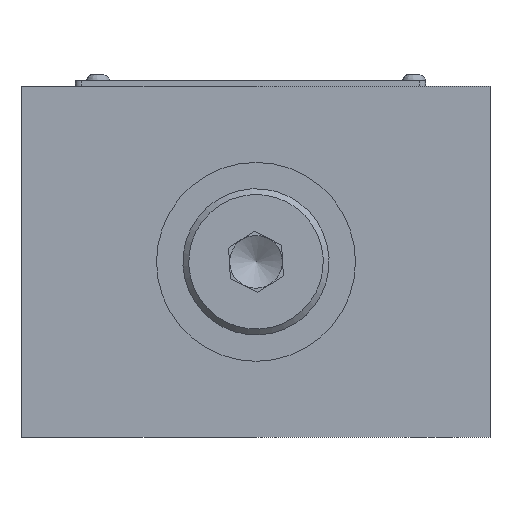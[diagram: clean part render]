
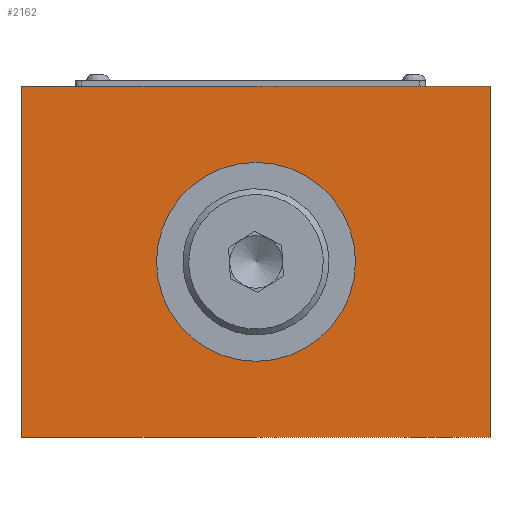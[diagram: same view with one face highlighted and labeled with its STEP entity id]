
A CAD part, front view. The second image highlights one B-rep face of the part: STEP entity #2162.
In plain terms, the highlighted planar face has unit normal (0, -1, 0).
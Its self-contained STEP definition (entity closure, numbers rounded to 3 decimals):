
#479=FACE_BOUND('',#3346,.T.);
#480=FACE_BOUND('',#3347,.T.);
#1491=LINE('',#17259,#1845);
#1493=LINE('',#17265,#1847);
#1494=LINE('',#17267,#1848);
#1495=LINE('',#17269,#1849);
#1845=VECTOR('',#9822,1.);
#1847=VECTOR('',#9828,1.);
#1848=VECTOR('',#9829,1.);
#1849=VECTOR('',#9830,1.);
#2162=ADVANCED_FACE('',(#479,#480),#2679,.F.);
#2679=PLANE('',#8453);
#3346=EDGE_LOOP('',(#4737));
#3347=EDGE_LOOP('',(#4738,#4739,#4740,#4741));
#4737=ORIENTED_EDGE('',*,*,#7190,.T.);
#4738=ORIENTED_EDGE('',*,*,#7191,.T.);
#4739=ORIENTED_EDGE('',*,*,#7192,.F.);
#4740=ORIENTED_EDGE('',*,*,#7193,.F.);
#4741=ORIENTED_EDGE('',*,*,#7188,.T.);
#6287=VERTEX_POINT('',#17258);
#6288=VERTEX_POINT('',#17260);
#6289=VERTEX_POINT('',#17264);
#6290=VERTEX_POINT('',#17266);
#6291=VERTEX_POINT('',#17268);
#7188=EDGE_CURVE('',#6288,#6287,#1491,.T.);
#7190=EDGE_CURVE('',#6289,#6289,#7889,.T.);
#7191=EDGE_CURVE('',#6287,#6290,#1493,.T.);
#7192=EDGE_CURVE('',#6291,#6290,#1494,.T.);
#7193=EDGE_CURVE('',#6288,#6291,#1495,.T.);
#7889=CIRCLE('',#8452,17.);
#8452=AXIS2_PLACEMENT_3D('',#17263,#9826,#9827);
#8453=AXIS2_PLACEMENT_3D('',#17270,#9831,#9832);
#9822=DIRECTION('',(0.,0.,-1.));
#9826=DIRECTION('',(0.,1.,0.));
#9827=DIRECTION('',(-1.,0.,0.));
#9828=DIRECTION('',(1.,0.,0.));
#9829=DIRECTION('',(0.,0.,-1.));
#9830=DIRECTION('',(1.,0.,0.));
#9831=DIRECTION('',(0.,1.,0.));
#9832=DIRECTION('',(1.,0.,0.));
#17258=CARTESIAN_POINT('',(-32.199,-94.,-30.));
#17259=CARTESIAN_POINT('',(-32.199,-94.,30.));
#17260=CARTESIAN_POINT('',(-32.199,-94.,30.));
#17263=CARTESIAN_POINT('',(7.801,-94.,0.));
#17264=CARTESIAN_POINT('',(-9.199,-94.,0.));
#17265=CARTESIAN_POINT('',(47.801,-94.,-30.));
#17266=CARTESIAN_POINT('',(47.801,-94.,-30.));
#17267=CARTESIAN_POINT('',(47.801,-94.,30.));
#17268=CARTESIAN_POINT('',(47.801,-94.,30.));
#17269=CARTESIAN_POINT('',(47.801,-94.,30.));
#17270=CARTESIAN_POINT('',(47.801,-94.,30.));
